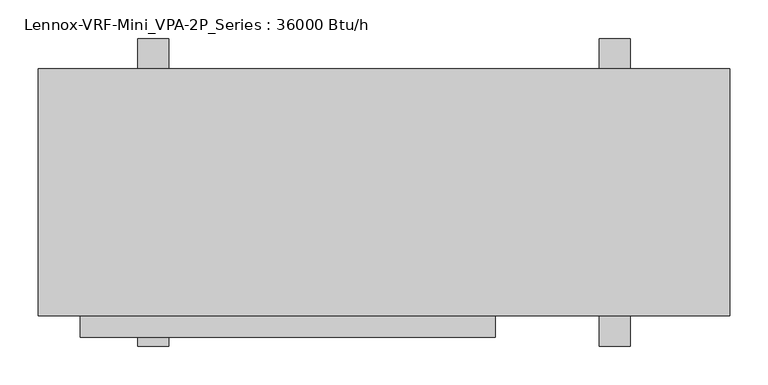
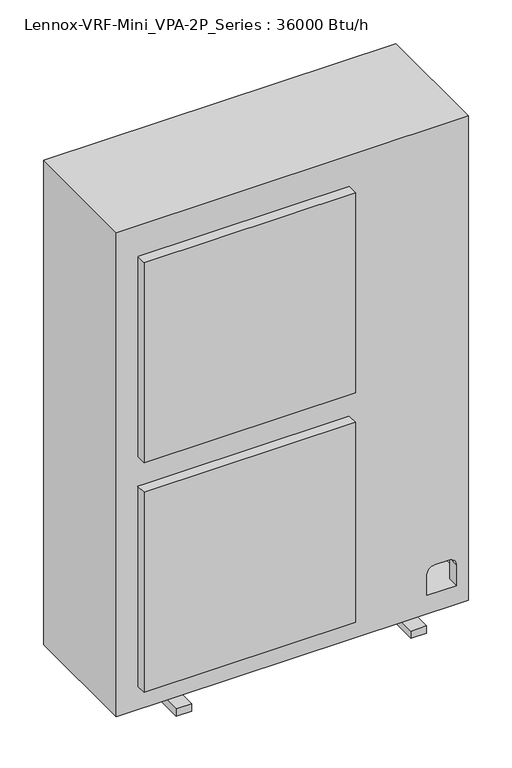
"""IFC4 building model written with IfcOpenShell, lengths in millimetres: proxy geometry, Lennox-VRF-Mini_VPA-2P_Series : 36000 Btu/h."""

from ifc_helpers import new_model, si_unit, point, frame, frame_2d, origin, origin_with_axes, place, context, project, spatial, polyline, circle_curve, trimmed, segment, composite_curve, outline, extrude, source, transform, mapped, element, save
from ifc_brep_helpers import plane_surface, revolved_surface, advanced_brep


def lennox_vrf_mini_vpa_2p_series_36000_btu_h_c9218847(model_context):
    return source(origin(), model_context, "Body", "SolidModel", [
        extrude(outline(composite_curve([segment(trimmed(circle_curve(frame_2d((364.5, -103.5)), 7.9375), [point((356.5625, -103.5))], [point((372.4375, -103.5))], False, "CARTESIAN"), True, "CONTINUOUS"), segment(trimmed(circle_curve(frame_2d((364.5, -103.5)), 7.9375), [point((372.4375, -103.5))], [point((356.5625, -103.5))], False, "CARTESIAN"), True, "CONTINUOUS")], self_intersect=False)), frame((0.0, 0.0, 145.0), z_axis=(0.0, 0.0, 1.0), x_axis=(1.0, 0.0, 0.0)), (0.0, 0.0, 1.0), 150.0),
        extrude(outline(composite_curve([segment(trimmed(circle_curve(frame_2d((399.5, -88.5)), 4.7625), [point((394.7375, -88.5))], [point((404.2625, -88.5))], False, "CARTESIAN"), True, "CONTINUOUS"), segment(trimmed(circle_curve(frame_2d((399.5, -88.5)), 4.7625), [point((404.2625, -88.5))], [point((394.7375, -88.5))], False, "CARTESIAN"), True, "CONTINUOUS")], self_intersect=False)), frame((0.0, 0.0, 145.0), z_axis=(0.0, 0.0, 1.0), x_axis=(1.0, 0.0, 0.0)), (0.0, 0.0, 1.0), 150.0),
        advanced_brep(
        [(449.5, 160.5, 1327.0), (-449.5, 160.5, 1327.0), (-449.5, -160.5, 1327.0), (449.5, -160.5, 1327.0), (449.5, 160.5, 20.0), (449.5, -160.5, 20.0), (-449.5, -160.5, 20.0), (-449.5, 160.5, 20.0), (364.5, -160.5, 145.0), (399.5, -160.5, 145.0), (419.5, -160.5, 125.0), (419.5, -160.5, 70.0), (344.5, -160.5, 70.0), (344.5, -160.5, 125.0), (449.5, -110.5, 145.0), (449.5, -75.5, 145.0), (449.5, -55.5, 125.0), (449.5, -55.5, 70.0), (449.5, -130.5, 70.0), (449.5, -130.5, 125.0), (399.5, -10.5, 145.0), (364.5, -10.5, 145.0), (344.5, -10.5, 125.0), (344.5, -10.5, 70.0), (419.5, -10.5, 70.0), (419.5, -10.5, 125.0), (364.5, -130.5, 145.0), (399.5, -130.5, 145.0), (419.5, -110.5, 145.0), (419.5, -75.5, 145.0), (399.5, -55.5, 145.0), (364.5, -55.5, 145.0), (299.5, -110.5, 145.0), (299.5, -75.5, 145.0), (344.5, -75.5, 145.0), (344.5, -110.5, 145.0), (344.5, -130.5, 70.0), (344.5, -130.5, 125.0), (344.5, -55.5, 125.0), (344.5, -55.5, 70.0), (299.5, -55.5, 70.0), (299.5, -130.5, 70.0), (419.5, -130.5, 70.0), (419.5, -55.5, 70.0), (419.5, -130.5, 125.0), (419.5, -55.5, 125.0), (299.5, -130.5, 125.0), (299.5, -55.5, 125.0), (419.5, -55.5, 245.0), (419.5, -130.5, 245.0), (344.5, -130.5, 245.0), (344.5, -55.5, 245.0)],
        [
            (0, 1),
            (1, 2),
            (2, 3),
            (3, 0),
            (4, 5),
            (5, 6),
            (6, 7),
            (7, 4),
            (0, 4),
            (7, 1),
            (6, 2),
            (5, 3),
            (8, 9),
            (9, 10, circle_curve(frame((399.5, -160.5, 125.0), z_axis=(0.0, 1.0, 0.0), x_axis=(1.0, 0.0, 0.0)), 20.0)),
            (10, 11),
            (11, 12),
            (12, 13),
            (13, 8, circle_curve(frame((364.5, -160.5, 125.0), z_axis=(0.0, 1.0, 0.0), x_axis=(1.0, 0.0, 0.0)), 20.0)),
            (14, 15),
            (15, 16, circle_curve(frame((449.5, -75.5, 125.0), z_axis=(-1.0, 0.0, 0.0), x_axis=(0.0, 1.0, 0.0)), 20.0)),
            (16, 17),
            (17, 18),
            (18, 19),
            (19, 14, circle_curve(frame((449.5, -110.5, 125.0), z_axis=(-1.0, 0.0, 0.0), x_axis=(0.0, 1.0, 0.0)), 20.0)),
            (20, 21),
            (21, 22, circle_curve(frame((364.5, -10.5, 125.0), z_axis=(0.0, -1.0, 0.0), x_axis=(1.0, 0.0, 0.0)), 20.0)),
            (22, 23),
            (23, 24),
            (24, 25),
            (25, 20, circle_curve(frame((399.5, -10.5, 125.0), z_axis=(0.0, -1.0, 0.0), x_axis=(1.0, 0.0, 0.0)), 20.0)),
            (8, 26),
            (26, 27),
            (27, 9),
            (14, 28),
            (28, 29),
            (29, 15),
            (20, 30),
            (30, 31),
            (31, 21),
            (32, 33),
            (33, 34),
            (34, 35),
            (35, 32),
            (12, 36),
            (36, 37),
            (37, 13),
            (22, 38),
            (38, 39),
            (39, 23),
            (39, 40),
            (40, 41),
            (41, 36),
            (11, 42),
            (42, 18),
            (17, 43),
            (43, 24),
            (10, 44),
            (44, 42),
            (43, 45),
            (45, 25),
            (37, 26, circle_curve(frame((364.5, -130.5, 125.0), z_axis=(0.0, 1.0, 0.0), x_axis=(1.0, 0.0, 0.0)), 20.0)),
            (31, 38, circle_curve(frame((364.5, -55.5, 125.0), z_axis=(0.0, -1.0, 0.0), x_axis=(1.0, 0.0, 0.0)), 20.0)),
            (27, 44, circle_curve(frame((399.5, -130.5, 125.0), z_axis=(0.0, 1.0, 0.0), x_axis=(1.0, 0.0, 0.0)), 20.0)),
            (45, 30, circle_curve(frame((399.5, -55.5, 125.0), z_axis=(0.0, -1.0, 0.0), x_axis=(1.0, 0.0, 0.0)), 20.0)),
            (32, 46, circle_curve(frame((299.5, -110.5, 125.0), z_axis=(1.0, 0.0, 0.0), x_axis=(0.0, 1.0, 0.0)), 20.0)),
            (46, 41),
            (40, 47),
            (47, 33, circle_curve(frame((299.5, -75.5, 125.0), z_axis=(1.0, 0.0, 0.0), x_axis=(0.0, 1.0, 0.0)), 20.0)),
            (35, 37, circle_curve(frame((344.5, -110.5, 125.0), z_axis=(1.0, 0.0, 0.0), x_axis=(0.0, 1.0, 0.0)), 20.0)),
            (37, 46),
            (19, 44),
            (44, 28, circle_curve(frame((419.5, -110.5, 125.0), z_axis=(-1.0, 0.0, 0.0), x_axis=(0.0, 1.0, 0.0)), 20.0)),
            (16, 45),
            (38, 47),
            (38, 34, circle_curve(frame((344.5, -75.5, 125.0), z_axis=(1.0, 0.0, 0.0), x_axis=(0.0, 1.0, 0.0)), 20.0)),
            (29, 45, circle_curve(frame((419.5, -75.5, 125.0), z_axis=(-1.0, 0.0, 0.0), x_axis=(0.0, 1.0, 0.0)), 20.0)),
            (48, 49),
            (49, 50),
            (50, 51),
            (51, 48),
            (51, 38),
            (45, 48),
            (50, 37),
            (49, 44),
        ],
        [
            plane_surface(frame((-449.5, 160.5, 1327.0), z_axis=(0.0, 0.0, 1.0), x_axis=(-1.0, 0.0, 0.0))),
            plane_surface(frame((-449.5, 160.5, 20.0), z_axis=(0.0, 0.0, -1.0), x_axis=(1.0, 0.0, 0.0))),
            plane_surface(frame((449.5, 160.5, 1327.0), z_axis=(0.0, 1.0, 0.0), x_axis=(0.0, 0.0, -1.0))),
            plane_surface(frame((-449.5, 160.5, 1327.0), z_axis=(-1.0, 0.0, 0.0), x_axis=(0.0, 0.0, -1.0))),
            plane_surface(frame((-449.5, -160.5, 1327.0), z_axis=(0.0, -1.0, 0.0), x_axis=(0.0, 0.0, -1.0))),
            plane_surface(frame((449.5, -160.5, 1327.0), z_axis=(1.0, 0.0, 0.0), x_axis=(0.0, 0.0, -1.0))),
            plane_surface(frame((364.5, -10.5, 145.0), z_axis=(0.0, -1.0, 0.0), x_axis=(1.0, 0.0, 0.0))),
            plane_surface(frame((399.5, -160.5, 145.0), z_axis=(0.0, 0.0, -1.0), x_axis=(0.0, 1.0, 0.0))),
            plane_surface(frame((344.5, -160.5, 125.0), z_axis=(1.0, 0.0, 0.0), x_axis=(0.0, 1.0, 0.0))),
            plane_surface(frame((344.5, -160.5, 70.0), z_axis=(0.0, 0.0, 1.0), x_axis=(0.0, 1.0, 0.0))),
            plane_surface(frame((419.5, -160.5, 70.0), z_axis=(-1.0, 0.0, 0.0), x_axis=(0.0, 1.0, 0.0))),
            revolved_surface(polyline([(384.5, -160.5, 125.0), (384.5, -130.5, 125.0)]), (364.5, -10.5, 125.0), (0.0, -1.0, 0.0)),
            revolved_surface(polyline([(384.5, -55.5, 125.0), (384.5, -10.5, 125.0)]), (364.5, -10.5, 125.0), (0.0, -1.0, 0.0)),
            revolved_surface(polyline([(419.5, -160.5, 125.0), (419.5, -130.5, 125.0)]), (399.5, -10.5, 125.0), (0.0, -1.0, 0.0)),
            revolved_surface(polyline([(419.5, -55.5, 125.0), (419.5, -10.5, 125.0)]), (399.5, -10.5, 125.0), (0.0, -1.0, 0.0)),
            plane_surface(frame((299.5, -110.5, 145.0), z_axis=(1.0, 0.0, 0.0), x_axis=(0.0, 1.0, 0.0))),
            revolved_surface(polyline([(344.5, -90.5, 125.0), (299.5, -90.5, 125.0)]), (299.5, -110.5, 125.0), (1.0, 0.0, 0.0)),
            revolved_surface(polyline([(449.5, -90.5, 125.0), (419.5, -90.5, 125.0)]), (299.5, -110.5, 125.0), (1.0, 0.0, 0.0)),
            plane_surface(frame((449.5, -130.5, 125.0), z_axis=(0.0, 1.0, 0.0), x_axis=(-1.0, 0.0, 0.0))),
            plane_surface(frame((449.5, -55.5, 70.0), z_axis=(0.0, -1.0, 0.0), x_axis=(-1.0, 0.0, 0.0))),
            revolved_surface(polyline([(344.5, -55.5, 125.0), (299.5, -55.5, 125.0)]), (299.5, -75.5, 125.0), (1.0, 0.0, 0.0)),
            revolved_surface(polyline([(449.5, -55.5, 125.0), (419.5, -55.5, 125.0)]), (299.5, -75.5, 125.0), (1.0, 0.0, 0.0)),
            plane_surface(frame((344.5, -55.5, 245.0), z_axis=(0.0, 0.0, -1.0), x_axis=(-1.0, 0.0, 0.0))),
            plane_surface(frame((419.5, -55.5, 245.0), z_axis=(0.0, -1.0, 0.0), x_axis=(0.0, 0.0, -1.0))),
            plane_surface(frame((344.5, -55.5, 245.0), z_axis=(1.0, 0.0, 0.0), x_axis=(0.0, 0.0, -1.0))),
            plane_surface(frame((344.5, -130.5, 245.0), z_axis=(0.0, 1.0, 0.0), x_axis=(0.0, 0.0, -1.0))),
            plane_surface(frame((419.5, -130.5, 245.0), z_axis=(-1.0, 0.0, 0.0), x_axis=(0.0, 0.0, -1.0))),
        ],
        [
            (0, [[1, 2, 3, 4]]),
            (1, [[5, 6, 7, 8]]),
            (2, [[-1, 9, -8, 10]]),
            (3, [[-2, -10, -7, 11]]),
            (4, [[-3, -11, -6, 12], [13, 14, 15, 16, 17, 18]]),
            (5, [[-4, -12, -5, -9], [19, 20, 21, 22, 23, 24]]),
            (6, [[25, 26, 27, 28, 29, 30]]),
            (7, [[-13, 31, 32, 33]]),
            (7, [[-19, 34, 35, 36]]),
            (7, [[-25, 37, 38, 39]]),
            (7, [[40, 41, 42, 43]]),
            (8, [[-17, 44, 45, 46]]),
            (8, [[-27, 47, 48, 49]]),
            (9, [[-28, -49, 50, 51, 52, -44, -16, 53, 54, -22, 55, 56]]),
            (10, [[-15, 57, 58, -53]]),
            (10, [[-29, -56, 59, 60]]),
            (11, [[-18, -46, 61, -31]]),
            (12, [[-26, -39, 62, -47]]),
            (13, [[-14, -33, 63, -57]]),
            (14, [[-30, -60, 64, -37]]),
            (15, [[-40, 65, 66, -51, 67, 68]]),
            (16, [[-65, -43, 69, 70]]),
            (17, [[71, 72, -34, -24]]),
            (18, [[-54, -58, -71, -23]]),
            (18, [[-66, -70, -45, -52]]),
            (19, [[-55, -21, 73, -59]]),
            (19, [[-67, -50, -48, 74]]),
            (20, [[-68, -74, 75, -41]]),
            (21, [[-73, -20, -36, 76]]),
            (22, [[77, 78, 79, 80]]),
            (23, [[-80, 81, -62, -38, -64, 82]]),
            (24, [[-79, 83, -69, -42, -75, -81]]),
            (25, [[-78, 84, -63, -32, -61, -83]]),
            (26, [[-77, -82, -76, -35, -72, -84]]),
        ],
    ),
        extrude(outline(polyline([(145.0, -188.5), (-395.0, -188.5), (-395.0, -160.5), (145.0, -160.5), (145.0, -188.5)])), frame((0.0, 0.0, 703.5), z_axis=(0.0, 0.0, 1.0), x_axis=(1.0, 0.0, 0.0)), (0.0, 0.0, 1.0), 540.0),
        extrude(outline(polyline([(145.0, -188.5), (-395.0, -188.5), (-395.0, -160.5), (145.0, -160.5), (145.0, -188.5)])), frame((0.0, 0.0, 83.5), z_axis=(0.0, 0.0, 1.0), x_axis=(1.0, 0.0, 0.0)), (0.0, 0.0, 1.0), 540.0),
        extrude(outline(polyline([(-280.0, 200.0), (-280.0, -200.0), (-320.0, -200.0), (-320.0, 200.0), (-280.0, 200.0)])), origin_with_axes(), (0.0, 0.0, 1.0), 20.0),
        extrude(outline(polyline([(320.0, 200.0), (320.0, -200.0), (280.0, -200.0), (280.0, 200.0), (320.0, 200.0)])), origin_with_axes(), (0.0, 0.0, 1.0), 20.0),
    ])


if __name__ == "__main__":
    model = new_model("IFC4")
    model_context = context("Model", 3, world=origin())
    ifc_project = project(units=[si_unit("LENGTHUNIT", "METRE", prefix="MILLI")], contexts=[model_context])
    site = spatial("IfcSite", under=ifc_project)
    building = spatial("IfcBuilding", under=site)
    placement = place(None, origin())
    lennox_vrf_mini_vpa_2p_series_36000_btu_h_shape = lennox_vrf_mini_vpa_2p_series_36000_btu_h_c9218847(model_context)
    element("IfcBuildingElementProxy", 1, Name="Lennox-VRF-Mini_VPA-2P_Series : 36000 Btu/h", ObjectType="Lennox-VRF-Mini_VPA-2P_Series : 36000 Btu/h", at=placement, inside=building, context=model_context, shape_type="MappedRepresentation", body=[
        mapped(lennox_vrf_mini_vpa_2p_series_36000_btu_h_shape, transform((0.0, 0.0, 0.0), x_axis=(1.0, 0.0, 0.0), y_axis=(0.0, 1.0, 0.0), z_axis=(0.0, 0.0, 1.0))),
    ])
    save(model, "model.ifc")
